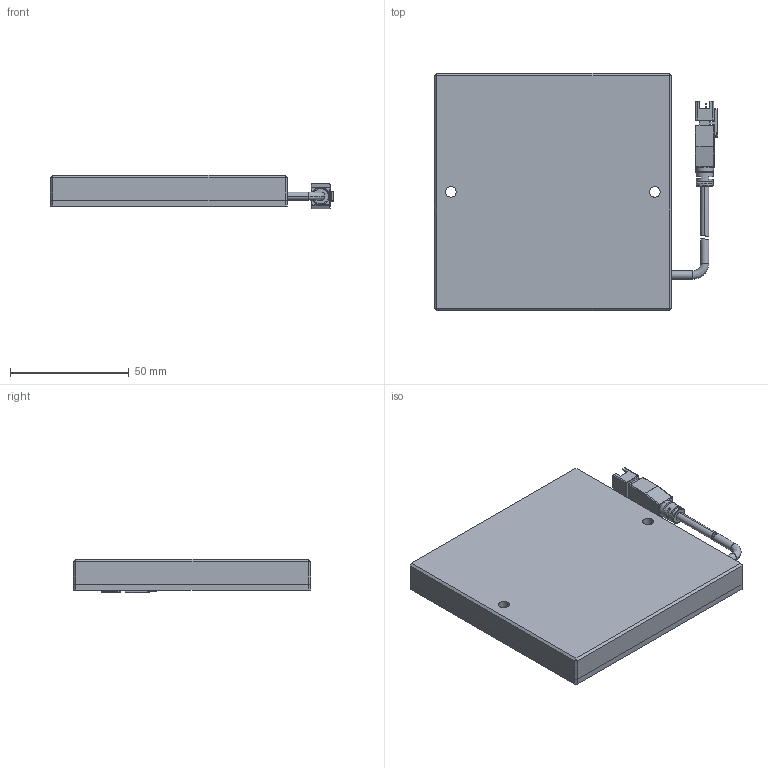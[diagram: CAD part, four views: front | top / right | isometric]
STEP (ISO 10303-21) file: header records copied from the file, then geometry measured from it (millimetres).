
FILE_DESCRIPTION (( 'STEP AP203' ), '1' );
FILE_NAME ('CRT-FLC6060-¼òÒ×3DÍ¼.STEP', '2021-12-10T02:00:05', ( 'Admin' ), ( '' ), 'SwSTEP 2.0', 'SolidWorks 2018', '' );
FILE_SCHEMA (( 'CONFIG_CONTROL_DESIGN' ));
Length unit declared in the file: millimetre
Products named in the file (1): CRT-FLC6060-潠眢3D芞
Bounding box: 119.45 x 100 x 14.1 mm (x, y, z)
Surface area: 36444.3 mm2 (no closed solid volume)
Topology: 0 solids, 5 shells, 237 faces, 684 edges, 436 vertices
Faces by surface type: plane 140, cylinder 72, bspline 18, torus 4, cone 3
Entity records: 8260 total; most frequent: CARTESIAN_POINT 2139, DIRECTION 1236, ORIENTED_EDGE 1213, EDGE_CURVE 676, LINE 450, VECTOR 450, VERTEX_POINT 436, AXIS2_PLACEMENT_3D 393
